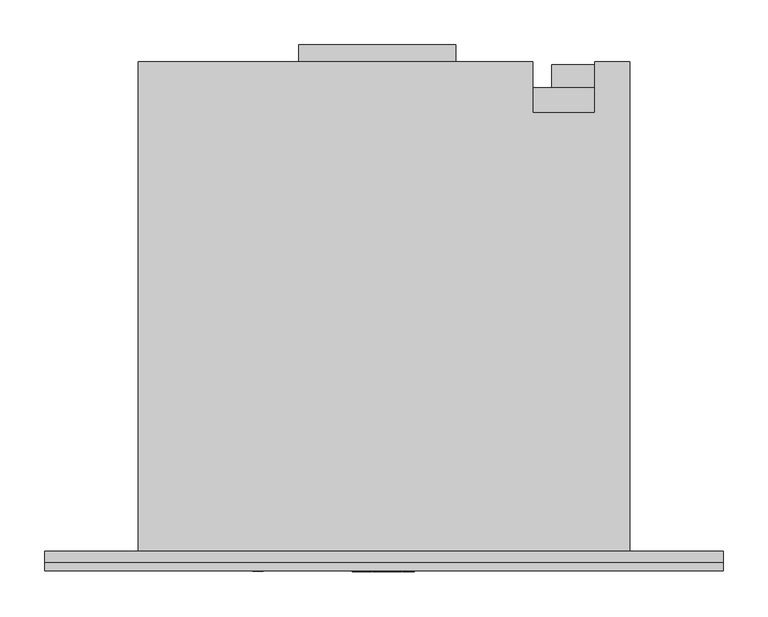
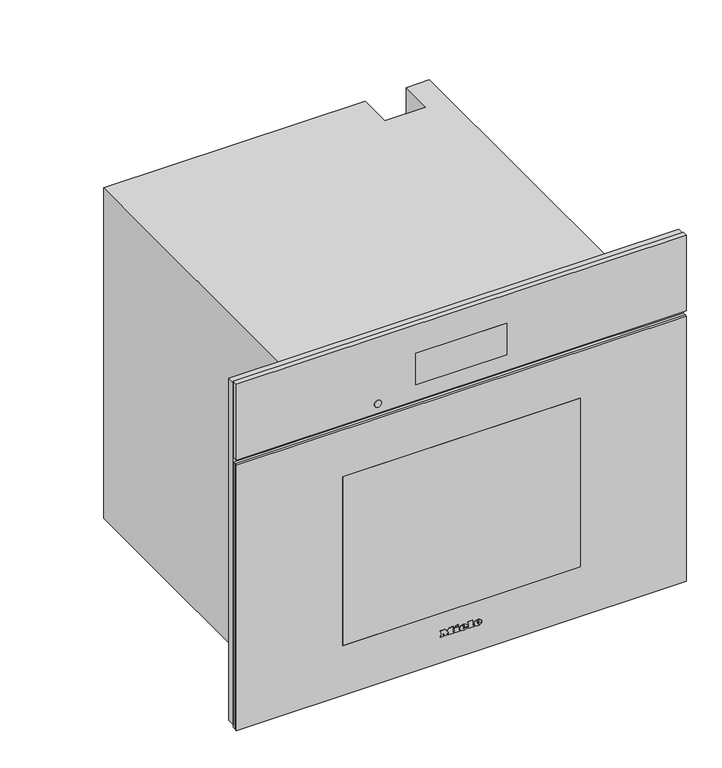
"""IFC4 building model written with IfcOpenShell, lengths in millimetres: proxy geometry, 11877040_USA_DGC7880X_GRGR : 23788073_USA_11877040_DGC7880X_GRGR."""

from ifc_helpers import new_model, si_unit, point, frame, frame_2d, origin, place, context, project, spatial, polyline, circle_curve, ellipse_curve, trimmed, segment, composite_curve, outline, extrude, faceted_brep, source, transform, mapped, element, save
from ifc_brep_helpers import plane_surface, cylinder_surface, revolved_surface, extruded_surface, advanced_brep


def specialty_equipment_e7a922d9(model_context):
    return source(origin(), model_context, "Body", "SolidModel", [
        faceted_brep([(378.5, -13.0, 617.0), (-378.5, -13.0, 617.0), (-378.5, -13.0, 9.0), (-272.5, -13.0, 9.0), (-272.5, -13.0, 485.0), (272.5, -13.0, 485.0), (272.5, -13.0, 9.0), (378.5, -13.0, 9.0), (378.5, 0.0, 617.0), (378.5, 0.0, 9.0), (-378.5, 0.0, 9.0), (-378.5, 0.0, 617.0), (231.0, 0.0, 61.0), (231.0, 0.0, 411.0), (-231.0, 0.0, 411.0), (-231.0, 0.0, 61.0), (272.5, -5.0, 9.0), (-272.5, -5.0, 9.0), (-272.5, -5.0, 485.0), (272.5, -5.0, 485.0), (231.0, -5.0, 411.0), (231.0, -5.0, 61.0), (-231.0, -5.0, 61.0), (-231.0, -5.0, 411.0)], [[[0, 1, 2, 3, 4, 5, 6, 7]], [[8, 9, 10, 11], [12, 13, 14, 15]], [[1, 0, 8, 11]], [[2, 1, 11, 10]], [[10, 9, 7, 6, 16, 17, 3, 2]], [[0, 7, 9, 8]], [[18, 19, 5, 4]], [[18, 4, 3, 17]], [[5, 19, 16, 6]], [[19, 18, 17, 16], [20, 21, 22, 23]], [[20, 13, 12, 21]], [[21, 12, 15, 22]], [[22, 15, 14, 23]], [[13, 20, 23, 14]]]),
        extrude(outline(polyline([(-95.0, 565.0), (80.0, 565.0), (80.0, 546.0), (-95.0, 546.0), (-95.0, 565.0)])), frame((0.0, 0.0, 311.0), z_axis=(0.0, 0.0, 1.0), x_axis=(1.0, 0.0, 0.0)), (0.0, 0.0, 1.0), 1.0),
        extrude(outline(polyline([(218.8383288, 522.0), (225.1236409, 522.0), (225.1236409, 511.9492425), (223.8571792, 511.9492425), (223.8571792, 520.7409796), (218.8383288, 520.7409796), (218.8383288, 522.0)])), frame((0.0, 0.0, 272.0), z_axis=(0.0, 0.0, 1.0), x_axis=(1.0, 0.0, 0.0)), (0.0, 0.0, 1.0), 1.0),
        extrude(outline(polyline([(227.0, 522.0), (234.3797826, 522.0), (234.3797826, 511.9503529), (227.15422, 511.9503529), (227.15422, 513.220938), (233.1355215, 513.220938), (233.1355215, 516.1975645), (227.4863097, 516.1975645), (227.4863097, 517.449242), (233.1355215, 517.449242), (233.1355215, 520.7448633), (227.0, 520.7448633), (227.0, 522.0)])), frame((0.0, 0.0, 272.0), z_axis=(0.0, 0.0, 1.0), x_axis=(1.0, 0.0, 0.0)), (0.0, 0.0, 1.0), 1.0),
        extrude(outline(composite_curve([segment(trimmed(circle_curve(frame_2d((227.0, 517.0)), 7.5), [point((219.5, 517.0))], [point((234.5, 517.0))], False, "CARTESIAN"), True, "CONTINUOUS"), segment(trimmed(circle_curve(frame_2d((227.0, 517.0)), 7.5), [point((234.5, 517.0))], [point((219.5, 517.0))], False, "CARTESIAN"), True, "CONTINUOUS")], self_intersect=False)), frame((0.0, 0.0, 273.0), z_axis=(0.0, 0.0, 1.0), x_axis=(1.0, 0.0, 0.0)), (0.0, 0.0, 1.0), 30.0),
        extrude(outline(polyline([(266.0, 517.0), (187.0, 517.0), (187.0, 543.0), (266.0, 543.0), (266.0, 517.0)])), frame((0.0, 0.0, 303.0), z_axis=(0.0, 0.0, 1.0), x_axis=(1.0, 0.0, 0.0)), (0.0, 0.0, 1.0), 111.0),
        faceted_brep([(-274.0, 546.0, 0.0), (-274.0, 546.0, 588.0), (166.0, 546.0, 588.0), (166.0, 546.0, 0.0), (235.0, 546.0, 588.0), (274.0, 546.0, 588.0), (274.0, 546.0, 478.0), (235.0, 546.0, 478.0), (274.0, 0.0, 588.0), (-274.0, 0.0, 588.0), (-274.0, 0.0, 0.0), (274.0, 0.0, 0.0), (231.0, 0.0, 411.0), (231.0, 0.0, 61.0), (-231.0, 0.0, 61.0), (-231.0, 0.0, 411.0), (235.0, 489.0, 588.0), (166.0, 489.0, 588.0), (166.0, 517.0, 0.0), (274.0, 517.0, 0.0), (274.0, 517.0, 478.0), (231.0, 411.0, 411.0), (-231.0, 411.0, 411.0), (-231.0, 411.0, 61.0), (231.0, 411.0, 61.0), (235.0, 489.0, 477.0), (166.0, 489.0, 477.0), (166.0, 517.0, 477.0), (235.0, 517.0, 477.0), (235.0, 517.0, 478.0)], [[[0, 1, 2, 3]], [[4, 5, 6, 7]], [[8, 9, 10, 11], [12, 13, 14, 15]], [[9, 8, 5, 4, 16, 17, 2, 1]], [[1, 0, 10, 9]], [[11, 10, 0, 3, 18, 19]], [[8, 11, 19, 20, 6, 5]], [[21, 22, 23, 24]], [[21, 24, 13, 12]], [[24, 23, 14, 13]], [[23, 22, 15, 14]], [[22, 21, 12, 15]], [[16, 25, 26, 17]], [[17, 26, 27, 18, 3, 2]], [[26, 25, 28, 27]], [[25, 16, 4, 7, 29, 28]], [[29, 20, 19, 18, 27, 28]], [[20, 29, 7, 6]]]),
        advanced_brep(
        [(26.2998, -23.0, 52.7018), (26.2998, -23.0, 53.8532), (33.9264, -23.0, 53.8532), (20.6568, -23.0, 53.8532), (23.7918, -23.0, 50.0), (33.7326, -23.0, 52.7018), (30.2898, -23.0, 52.7018), (27.5766, -23.0, 51.425), (26.2998, -23.0, 55.3124), (26.2998, -23.0, 56.555), (28.2492, -23.0, 56.555), (28.2492, -23.0, 55.3124), (26.2998, -22.0, 52.7018), (27.5766, -22.0, 51.425), (30.2898, -22.0, 52.7018), (33.7326, -22.0, 52.7018), (23.7918, -22.0, 50.0), (20.6568, -22.0, 53.8532), (33.9264, -22.0, 53.8532), (26.2998, -22.0, 53.8532), (26.2998, -22.0, 55.3124), (28.2492, -22.0, 55.3124), (28.2492, -22.0, 56.555), (26.2998, -22.0, 56.555)],
        [
            (0, 1),
            (1, 2),
            (2, 3, ellipse_curve(frame((27.2916, -23.0, 53.8532), z_axis=(0.0, -1.0, 0.0), x_axis=(-1.0, 0.0, 0.0)), 6.6348, 5.4834)),
            (3, 4, circle_curve(frame((25.0686622, -23.0, 54.2408), z_axis=(0.0, -1.0, 0.0), x_axis=(0.0, 0.0, -1.0)), 4.4288556)),
            (4, 5, circle_curve(frame((27.1587808, -23.0, 57.2504), z_axis=(0.0, -1.0, 0.0), x_axis=(0.0, 0.0, -1.0)), 7.9940516)),
            (5, 6),
            (6, 7, circle_curve(frame((28.1338588, -23.0, 53.762), z_axis=(0.0, 1.0, 0.0), x_axis=(0.0, 0.0, -1.0)), 2.4025208)),
            (7, 0, circle_curve(frame((27.5766, -23.0, 52.7018), z_axis=(0.0, 1.0, 0.0), x_axis=(0.0, 0.0, -1.0)), 1.2768)),
            (8, 9),
            (9, 10, circle_curve(frame((27.2745, -23.0, 56.555), z_axis=(0.0, 1.0, 0.0), x_axis=(0.0, 0.0, -1.0)), 0.9747)),
            (10, 11),
            (11, 8),
            (12, 13, circle_curve(frame((27.5766, -22.0, 52.7018), z_axis=(0.0, -1.0, 0.0), x_axis=(0.0, 0.0, -1.0)), 1.2768)),
            (13, 14, circle_curve(frame((28.1338588, -22.0, 53.762), z_axis=(0.0, -1.0, 0.0), x_axis=(0.0, 0.0, -1.0)), 2.4025208)),
            (14, 15),
            (15, 16, circle_curve(frame((27.1587808, -22.0, 57.2504), z_axis=(0.0, 1.0, 0.0), x_axis=(0.0, 0.0, -1.0)), 7.9940516)),
            (16, 17, circle_curve(frame((25.0686622, -22.0, 54.2408), z_axis=(0.0, 1.0, 0.0), x_axis=(0.0, 0.0, -1.0)), 4.4288556)),
            (17, 18, ellipse_curve(frame((27.2916, -22.0, 53.8532), z_axis=(0.0, 1.0, 0.0), x_axis=(-1.0, 0.0, 0.0)), 6.6348, 5.4834)),
            (18, 19),
            (19, 12),
            (20, 21),
            (21, 22),
            (22, 23, circle_curve(frame((27.2745, -22.0, 56.555), z_axis=(0.0, -1.0, 0.0), x_axis=(0.0, 0.0, -1.0)), 0.9747)),
            (23, 20),
            (0, 12),
            (19, 1),
            (18, 2),
            (5, 15),
            (14, 6),
            (17, 3),
            (13, 7),
            (16, 4),
            (8, 20),
            (23, 9),
            (22, 10),
            (21, 11),
        ],
        [
            plane_surface(frame((26.2998, -23.0, 53.8532), z_axis=(0.0, -1.0, 0.0), x_axis=(0.0, 0.0, 1.0))),
            plane_surface(frame((26.2998, -22.0, 53.8532), z_axis=(0.0, 1.0, 0.0), x_axis=(0.0, 0.0, -1.0))),
            plane_surface(frame((26.2998, -23.0, 52.7018), z_axis=(1.0, 0.0, 0.0), x_axis=(0.0, 1.0, 0.0))),
            plane_surface(frame((26.2998, -23.0, 53.8532), z_axis=(0.0, 0.0, -1.0), x_axis=(0.0, 1.0, 0.0))),
            plane_surface(frame((33.7326, -23.0, 52.7018), z_axis=(0.0, 0.0, 1.0), x_axis=(0.0, 1.0, 0.0))),
            extruded_surface(trimmed(ellipse_curve(frame((27.2916, -21.0, 53.8532), z_axis=(0.0, -1.0, 0.0), x_axis=(-1.0, 0.0, 0.0)), 6.6348, 5.4834), [point((33.9264, -21.0, 53.8532))], [point((20.6568, -21.0, 53.8532))], True, "CARTESIAN"), (0.0, -1.0, 0.0), 1.0),
            revolved_surface(polyline([(28.1338588, -22.0, 51.3594792), (28.1338588, -23.0, 51.3594792)]), (28.1338588, -22.0, 53.762), (0.0, 1.0, 0.0)),
            revolved_surface(polyline([(27.5766, -22.0, 51.425), (27.5766, -23.0, 51.425)]), (27.5766, -22.0, 52.7018), (0.0, 1.0, 0.0)),
            cylinder_surface(frame((25.0686622, -22.0, 54.2408), z_axis=(0.0, -1.0, 0.0), x_axis=(0.0, 0.0, -1.0)), 4.4288556),
            cylinder_surface(frame((27.1587808, -22.0, 57.2504), z_axis=(0.0, -1.0, 0.0), x_axis=(0.0, 0.0, -1.0)), 7.9940516),
            plane_surface(frame((26.2998, -23.0, 55.3124), z_axis=(1.0, 0.0, 0.0), x_axis=(0.0, 1.0, 0.0))),
            revolved_surface(polyline([(27.2745, -22.0, 55.5803), (27.2745, -23.0, 55.5803)]), (27.2745, -22.0, 56.555), (0.0, 1.0, 0.0)),
            plane_surface(frame((28.2492, -23.0, 56.555), z_axis=(-1.0, 0.0, 0.0), x_axis=(0.0, 1.0, 0.0))),
            plane_surface(frame((28.2492, -23.0, 55.3124), z_axis=(0.0, 0.0, 1.0), x_axis=(0.0, 1.0, 0.0))),
        ],
        [
            (0, [[1, 2, 3, 4, 5, 6, 7, 8], [9, 10, 11, 12]]),
            (1, [[13, 14, 15, 16, 17, 18, 19, 20], [21, 22, 23, 24]]),
            (2, [[-1, 25, -20, 26]]),
            (3, [[-2, -26, -19, 27]]),
            (4, [[-6, 28, -15, 29]]),
            (5, [[-3, -27, -18, 30]]),
            (6, [[-7, -29, -14, 31]]),
            (7, [[-8, -31, -13, -25]]),
            (8, [[-4, -30, -17, 32]]),
            (9, [[-5, -32, -16, -28]]),
            (10, [[-9, 33, -24, 34]]),
            (11, [[-10, -34, -23, 35]]),
            (12, [[-11, -35, -22, 36]]),
            (13, [[-12, -36, -21, -33]]),
        ],
    ),
        advanced_brep(
        [(2.508, -23.0, 52.7018), (2.508, -23.0, 53.8532), (10.1346, -23.0, 53.8532), (-3.135, -23.0, 53.8532), (0.0, -23.0, 50.0), (9.9408, -23.0, 52.7018), (6.498, -23.0, 52.7018), (3.7848, -23.0, 51.425), (2.508, -23.0, 55.3124), (2.508, -23.0, 56.555), (4.4574, -23.0, 56.555), (4.4574, -23.0, 55.3124), (2.508, -22.0, 52.7018), (3.7848, -22.0, 51.425), (6.498, -22.0, 52.7018), (9.9408, -22.0, 52.7018), (0.0, -22.0, 50.0), (-3.135, -22.0, 53.8532), (10.1346, -22.0, 53.8532), (2.508, -22.0, 53.8532), (2.508, -22.0, 55.3124), (4.4574, -22.0, 55.3124), (4.4574, -22.0, 56.555), (2.508, -22.0, 56.555)],
        [
            (0, 1),
            (1, 2),
            (2, 3, ellipse_curve(frame((3.4998, -23.0, 53.8532), z_axis=(0.0, -1.0, 0.0), x_axis=(-1.0, 0.0, 0.0)), 6.6348, 5.4834)),
            (3, 4, circle_curve(frame((1.2768622, -23.0, 54.2408), z_axis=(0.0, -1.0, 0.0), x_axis=(0.0, 0.0, -1.0)), 4.4288556)),
            (4, 5, circle_curve(frame((3.3669808, -23.0, 57.2504), z_axis=(0.0, -1.0, 0.0), x_axis=(0.0, 0.0, -1.0)), 7.9940516)),
            (5, 6),
            (6, 7, circle_curve(frame((4.3420588, -23.0, 53.762), z_axis=(0.0, 1.0, 0.0), x_axis=(0.0, 0.0, -1.0)), 2.4025208)),
            (7, 0, circle_curve(frame((3.7848, -23.0, 52.7018), z_axis=(0.0, 1.0, 0.0), x_axis=(0.0, 0.0, -1.0)), 1.2768)),
            (8, 9),
            (9, 10, circle_curve(frame((3.4827, -23.0, 56.555), z_axis=(0.0, 1.0, 0.0), x_axis=(0.0, 0.0, -1.0)), 0.9747)),
            (10, 11),
            (11, 8),
            (12, 13, circle_curve(frame((3.7848, -22.0, 52.7018), z_axis=(0.0, -1.0, 0.0), x_axis=(0.0, 0.0, -1.0)), 1.2768)),
            (13, 14, circle_curve(frame((4.3420588, -22.0, 53.762), z_axis=(0.0, -1.0, 0.0), x_axis=(0.0, 0.0, -1.0)), 2.4025208)),
            (14, 15),
            (15, 16, circle_curve(frame((3.3669808, -22.0, 57.2504), z_axis=(0.0, 1.0, 0.0), x_axis=(0.0, 0.0, -1.0)), 7.9940516)),
            (16, 17, circle_curve(frame((1.2768622, -22.0, 54.2408), z_axis=(0.0, 1.0, 0.0), x_axis=(0.0, 0.0, -1.0)), 4.4288556)),
            (17, 18, ellipse_curve(frame((3.4998, -22.0, 53.8532), z_axis=(0.0, 1.0, 0.0), x_axis=(-1.0, 0.0, 0.0)), 6.6348, 5.4834)),
            (18, 19),
            (19, 12),
            (20, 21),
            (21, 22),
            (22, 23, circle_curve(frame((3.4827, -22.0, 56.555), z_axis=(0.0, -1.0, 0.0), x_axis=(0.0, 0.0, -1.0)), 0.9747)),
            (23, 20),
            (0, 12),
            (19, 1),
            (18, 2),
            (5, 15),
            (14, 6),
            (17, 3),
            (13, 7),
            (16, 4),
            (8, 20),
            (23, 9),
            (22, 10),
            (21, 11),
        ],
        [
            plane_surface(frame((2.508, -23.0, 53.8532), z_axis=(0.0, -1.0, 0.0), x_axis=(0.0, 0.0, 1.0))),
            plane_surface(frame((2.508, -22.0, 53.8532), z_axis=(0.0, 1.0, 0.0), x_axis=(0.0, 0.0, -1.0))),
            plane_surface(frame((2.508, -23.0, 52.7018), z_axis=(1.0, 0.0, 0.0), x_axis=(0.0, 1.0, 0.0))),
            plane_surface(frame((2.508, -23.0, 53.8532), z_axis=(0.0, 0.0, -1.0), x_axis=(0.0, 1.0, 0.0))),
            plane_surface(frame((9.9408, -23.0, 52.7018), z_axis=(0.0, 0.0, 1.0), x_axis=(0.0, 1.0, 0.0))),
            extruded_surface(trimmed(ellipse_curve(frame((3.4998, -21.0, 53.8532), z_axis=(0.0, -1.0, 0.0), x_axis=(-1.0, 0.0, 0.0)), 6.6348, 5.4834), [point((10.1346, -21.0, 53.8532))], [point((-3.135, -21.0, 53.8532))], True, "CARTESIAN"), (0.0, -1.0, 0.0), 1.0),
            revolved_surface(polyline([(4.3420588, -22.0, 51.3594792), (4.3420588, -23.0, 51.3594792)]), (4.3420588, -22.0, 53.762), (0.0, 1.0, 0.0)),
            revolved_surface(polyline([(3.7848, -22.0, 51.425), (3.7848, -23.0, 51.425)]), (3.7848, -22.0, 52.7018), (0.0, 1.0, 0.0)),
            cylinder_surface(frame((1.2768622, -22.0, 54.2408), z_axis=(0.0, -1.0, 0.0), x_axis=(0.0, 0.0, -1.0)), 4.4288556),
            cylinder_surface(frame((3.3669808, -22.0, 57.2504), z_axis=(0.0, -1.0, 0.0), x_axis=(0.0, 0.0, -1.0)), 7.9940516),
            plane_surface(frame((2.508, -23.0, 55.3124), z_axis=(1.0, 0.0, 0.0), x_axis=(0.0, 1.0, 0.0))),
            revolved_surface(polyline([(3.4827, -22.0, 55.5803), (3.4827, -23.0, 55.5803)]), (3.4827, -22.0, 56.555), (0.0, 1.0, 0.0)),
            plane_surface(frame((4.4574, -23.0, 56.555), z_axis=(-1.0, 0.0, 0.0), x_axis=(0.0, 1.0, 0.0))),
            plane_surface(frame((4.4574, -23.0, 55.3124), z_axis=(0.0, 0.0, 1.0), x_axis=(0.0, 1.0, 0.0))),
        ],
        [
            (0, [[1, 2, 3, 4, 5, 6, 7, 8], [9, 10, 11, 12]]),
            (1, [[13, 14, 15, 16, 17, 18, 19, 20], [21, 22, 23, 24]]),
            (2, [[-1, 25, -20, 26]]),
            (3, [[-2, -26, -19, 27]]),
            (4, [[-6, 28, -15, 29]]),
            (5, [[-3, -27, -18, 30]]),
            (6, [[-7, -29, -14, 31]]),
            (7, [[-8, -31, -13, -25]]),
            (8, [[-4, -30, -17, 32]]),
            (9, [[-5, -32, -16, -28]]),
            (10, [[-9, 33, -24, 34]]),
            (11, [[-10, -34, -23, 35]]),
            (12, [[-11, -35, -22, 36]]),
            (13, [[-12, -36, -21, -33]]),
        ],
    ),
        extrude(outline(polyline([(60.7274, -9.9522), (58.8806, -9.0858), (60.6818, -5.2212), (62.5286, -6.0762), (60.7274, -9.9522)])), frame((0.0, -23.0, 0.0), z_axis=(0.0, 1.0, 0.0), x_axis=(0.0, 0.0, 1.0)), (0.0, 0.0, 1.0), 1.0),
        extrude(outline(polyline([(58.6298, -12.768), (56.5892, -12.768), (56.5892, -11.4114), (51.9152, -11.4114), (51.9152, -12.768), (50.0, -12.768), (50.0, -3.7734), (51.9152, -3.7734), (51.9152, -5.0958), (58.6298, -5.0958), (58.6298, -12.768)])), frame((0.0, -23.0, 0.0), z_axis=(0.0, 1.0, 0.0), x_axis=(0.0, 0.0, 1.0)), (0.0, 0.0, 1.0), 1.0),
        extrude(outline(polyline([(59.5418, 10.773), (59.5418, 12.141), (51.9152, 12.141), (51.9152, 10.773), (50.0, 10.773), (50.0, 20.0184), (51.9152, 20.0184), (51.9152, 18.6162), (61.4, 18.6162), (61.4, 10.773), (59.5418, 10.773)])), frame((0.0, -23.0, 0.0), z_axis=(0.0, 1.0, 0.0), x_axis=(0.0, 0.0, 1.0)), (0.0, 0.0, 1.0), 1.0),
        extrude(outline(polyline([(59.5418, -35.4882), (59.5418, -34.1088), (51.9152, -34.1088), (51.9152, -35.4882), (50.0, -35.4882), (50.0, -30.4722), (51.9152, -30.4722), (51.9152, -31.8402), (56.7429247, -31.8402), (50.0, -26.7444), (56.9402223, -21.6258), (51.9152, -21.6258), (51.9152, -23.028), (50.0, -23.028), (50.0, -13.9308), (51.9152, -13.9308), (51.9152, -15.3786), (59.5418, -15.3786), (59.5418, -13.9308), (61.4, -13.9308), (61.4, -20.8734), (57.125, -24.2022), (61.4, -27.5424), (61.4, -35.4882), (59.5418, -35.4882)])), frame((0.0, -23.0, 0.0), z_axis=(0.0, 1.0, 0.0), x_axis=(0.0, 0.0, 1.0)), (0.0, 0.0, 1.0), 1.0),
        extrude(outline(composite_curve([segment(trimmed(circle_curve(frame_2d((502.0, -140.5745637)), 6.0), [point((502.0, -146.5745637))], [point((502.0, -134.5745637))], False, "CARTESIAN"), True, "CONTINUOUS"), segment(trimmed(circle_curve(frame_2d((502.0, -140.5745637)), 6.0), [point((502.0, -134.5745637))], [point((502.0, -146.5745637))], False, "CARTESIAN"), True, "CONTINUOUS")], self_intersect=False)), frame((0.0, -22.5, 0.0), z_axis=(0.0, 1.0, 0.0), x_axis=(0.0, 0.0, 1.0)), (0.0, 0.0, 1.0), 1.0),
        extrude(outline(polyline([(-76.5, -21.0), (76.5, -21.0), (76.5, -22.0), (-76.5, -22.0), (-76.5, -21.0)])), frame((0.0, 0.0, 513.0), z_axis=(0.0, 0.0, 1.0), x_axis=(1.0, 0.0, 0.0)), (0.0, 0.0, 1.0), 56.0),
        faceted_brep([(378.5, -22.0, 620.0), (-378.5, -22.0, 620.0), (-378.5, -22.0, 485.0), (378.5, -22.0, 485.0), (76.5, -22.0, 569.0), (76.5, -22.0, 513.0), (-76.5, -22.0, 513.0), (-76.5, -22.0, 569.0), (378.5, -13.0, 620.0), (378.5, -13.0, 485.0), (-378.5, -13.0, 485.0), (-378.5, -13.0, 620.0), (76.5, -21.0, 569.0), (-76.5, -21.0, 569.0), (-76.5, -21.0, 513.0), (76.5, -21.0, 513.0)], [[[0, 1, 2, 3], [4, 5, 6, 7]], [[8, 9, 10, 11]], [[1, 0, 8, 11]], [[2, 1, 11, 10]], [[3, 2, 10, 9]], [[0, 3, 9, 8]], [[12, 13, 14, 15]], [[12, 15, 5, 4]], [[15, 14, 6, 5]], [[14, 13, 7, 6]], [[13, 12, 4, 7]]]),
        extrude(outline(polyline([(200.0, -22.0), (-200.0, -22.0), (-200.0, -18.0), (200.0, -18.0), (200.0, -22.0)])), frame((0.0, 0.0, 92.5), z_axis=(0.0, 0.0, 1.0), x_axis=(1.0, 0.0, 0.0)), (0.0, 0.0, 1.0), 300.0),
        extrude(outline(polyline([(476.0, 378.5), (476.0, -378.5), (4.0, -378.5), (4.0, 378.5), (476.0, 378.5)]), holes=[polyline([(392.5, -200.0), (392.5, 200.0), (92.5, 200.0), (92.5, -200.0), (392.5, -200.0)])]), frame((0.0, -22.0, 0.0), z_axis=(0.0, 1.0, 0.0), x_axis=(0.0, 0.0, 1.0)), (0.0, 0.0, 1.0), 4.0),
        extrude(outline(polyline([(378.5, -18.0), (-378.5, -18.0), (-378.5, -13.0), (378.5, -13.0), (378.5, -18.0)])), frame((0.0, 0.0, 4.0), z_axis=(0.0, 0.0, 1.0), x_axis=(1.0, 0.0, 0.0)), (0.0, 0.0, 1.0), 472.0),
    ])


if __name__ == "__main__":
    model = new_model("IFC4")
    model_context = context("Model", 3, world=origin())
    ifc_project = project(units=[si_unit("LENGTHUNIT", "METRE", prefix="MILLI")], contexts=[model_context])
    site = spatial("IfcSite", under=ifc_project)
    building = spatial("IfcBuilding", under=site)
    placement = place(None, origin())
    specialty_equipment_shape = specialty_equipment_e7a922d9(model_context)
    element("IfcBuildingElementProxy", 1, Name="11877040_USA_DGC7880X_GRGR : 23788073_USA_11877040_DGC7880X_GRGR", ObjectType="11877040_USA_DGC7880X_GRGR : 23788073_USA_11877040_DGC7880X_GRGR", at=placement, inside=building, context=model_context, shape_type="MappedRepresentation", body=[
        mapped(specialty_equipment_shape, transform((0.0, 0.0, 0.0), x_axis=(1.0, 0.0, 0.0), y_axis=(0.0, 1.0, 0.0), z_axis=(0.0, 0.0, 1.0))),
    ])
    save(model, "model.ifc")
